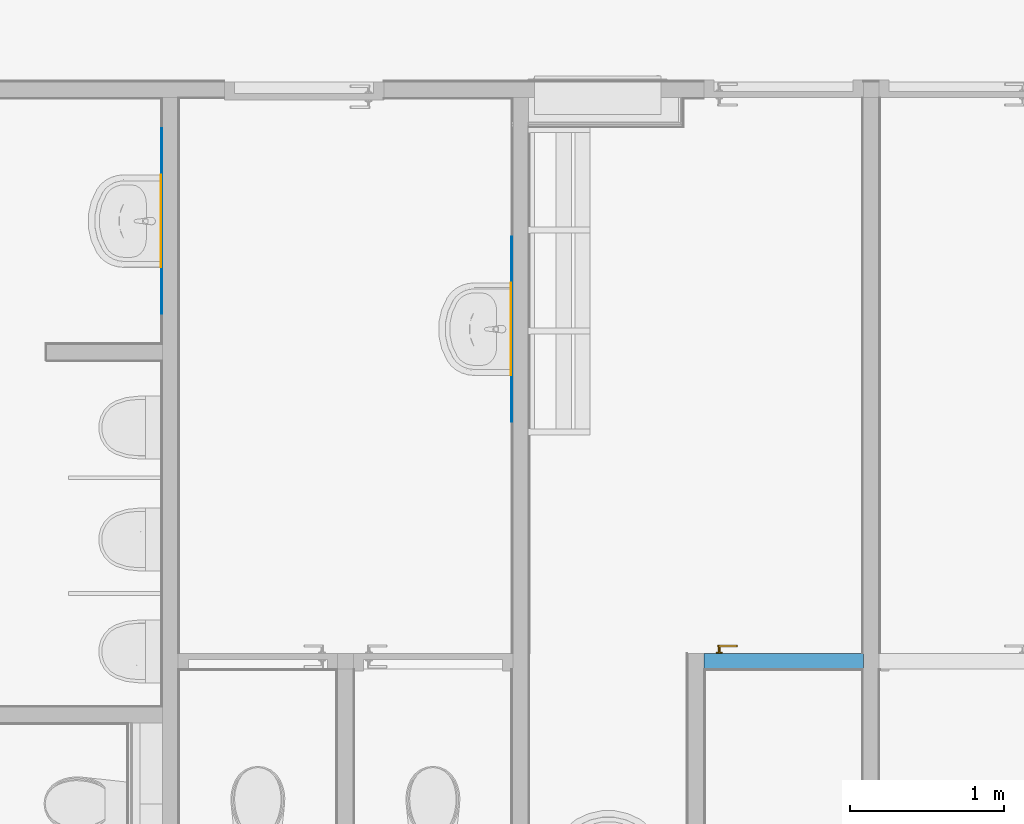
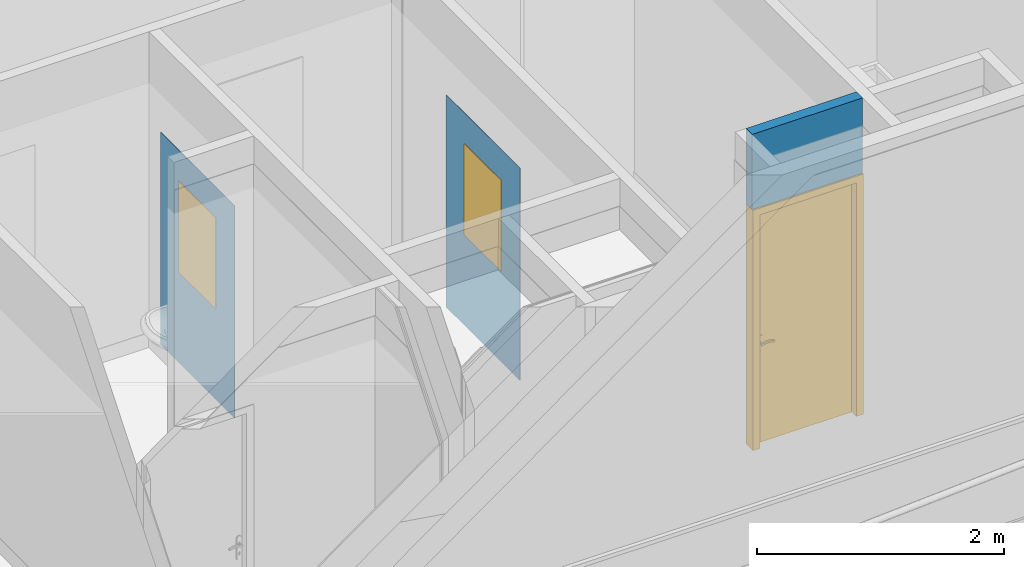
# One storey, part 6 of 788: 3 walls, 2 windows, 1 door, 3 openings.
"""IFC2X3 building model written with IfcOpenShell, lengths in millimetres."""

from ifc_helpers import new_model, entity, si_unit, converted_unit, derived_unit, money_unit, direction, frame, origin_with_axes, place, context, subcontext, project, spatial, faceted_brep, source, transform, mapped, material, type_object, type_shapes, element, fill, save


model = new_model("IFC2X3")

# Units and contexts
model_context = context("Model", 3, precision=0.01, world=origin_with_axes(), true_north=direction((0.0, 1.0)))
plan_context = context("Plan", 3, precision=0.01, world=origin_with_axes(), true_north=direction((0.0, 1.0)))
body_context = subcontext(model_context, "Body", "Model", "MODEL_VIEW")
ifc_project = project(units=[si_unit("LENGTHUNIT", "METRE", prefix="MILLI"), si_unit("AREAUNIT", "SQUARE_METRE"), si_unit("VOLUMEUNIT", "CUBIC_METRE"), converted_unit("PLANEANGLEUNIT", "DEGREE", entity("IfcPlaneAngleMeasure", 0.0174532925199), si_unit("PLANEANGLEUNIT", "RADIAN"), dimensions=[0, 0, 0, 0, 0, 0, 0]), money_unit("EUR"), converted_unit("TIMEUNIT", "Year", entity("IfcTimeMeasure", 31556926.0), si_unit("TIMEUNIT", "SECOND"), dimensions=[0, 0, 1, 0, 0, 0, 0]), si_unit("MASSUNIT", "GRAM", prefix="KILO"), si_unit("THERMODYNAMICTEMPERATUREUNIT", "DEGREE_CELSIUS"), si_unit("LUMINOUSINTENSITYUNIT", "LUMEN"), si_unit("ENERGYUNIT", "JOULE", prefix="MEGA"), derived_unit("THERMALCONDUCTANCEUNIT", [(si_unit("POWERUNIT", "WATT"), 1), (si_unit("LENGTHUNIT", "METRE"), -1), (si_unit("THERMODYNAMICTEMPERATUREUNIT", "KELVIN"), -1)]), derived_unit("SPECIFICHEATCAPACITYUNIT", [(si_unit("ENERGYUNIT", "JOULE"), 1), (si_unit("MASSUNIT", "GRAM", prefix="KILO"), -1), (si_unit("THERMODYNAMICTEMPERATUREUNIT", "KELVIN"), -1)]), derived_unit("MASSDENSITYUNIT", [(si_unit("MASSUNIT", "GRAM", prefix="KILO"), 1), (si_unit("VOLUMEUNIT", "CUBIC_METRE"), -1)])], contexts=[model_context, plan_context])

# Site, building, storey
site_placement = place(None, origin_with_axes())
site = spatial("IfcSite", under=ifc_project, at=site_placement, Name="Site", CompositionType="ELEMENT")
building_placement = place(site_placement, origin_with_axes())
building = spatial("IfcBuilding", under=site, at=building_placement, Name="Naam gebouw", CompositionType="ELEMENT")
storey_placement = place(building_placement, origin_with_axes())
storey = spatial("IfcBuildingStorey", under=building, at=storey_placement, Name="Begane grond", CompositionType="ELEMENT", Elevation=0.0)

# Wall, opening, door
ifc_material_1 = material(Name="Steen - Betonblok C")
wall_type_1 = type_object("IfcWallType", Name="22 Binnenwand NC_betonblok 100mm 100", PredefinedType="ELEMENTEDWALL")
wall_1_placement = place(storey_placement, frame((71875.9824942, -56503.9858655, 830.0), z_axis=(0.0, 0.0, 1.0), x_axis=(-1.0, 0.0, 0.0)))
wall_1 = element("IfcWall", 1, at=wall_1_placement, inside=storey, type_object=wall_type_1, material=ifc_material_1, Name="Binnenwand", context=body_context, shape_type="Brep", body=[
    faceted_brep([(0.0, 50.0, 2447.0), (0.0, -50.0, 2447.0), (0.0, -50.0, 3190.0), (0.0, 50.0, 3190.0), (1034.0, -50.0, 2447.0), (1034.0, 50.0, 2447.0), (1034.00282185, -50.0, 3190.0), (1034.00282185, 50.0, 3190.0)], [[[0, 1, 2, 3]], [[4, 1, 0, 5]], [[1, 4, 6, 2]], [[6, 7, 3, 2]], [[5, 0, 3, 7]], [[4, 5, 7, 6]]]),
])
opening_1_placement = place(wall_1_placement, frame((517.0, 0.0, 70.0), z_axis=(0.0, 0.0, 1.0), x_axis=(1.0, 0.0, 0.0)))
opening_1 = element("IfcOpeningElement", 2, at=opening_1_placement, cuts=wall_1, Name="b1.13", context=body_context, shape_type="Brep", body=[
    faceted_brep([(-517.0, 100.0, 2377.0), (-517.0, 100.0, 0.0), (-517.0, -200.0, 0.0), (-517.0, -200.0, 2377.0), (517.0, 100.0, 2377.0), (517.0, 100.0, 0.0), (517.0, -200.0, 0.0), (517.0, -200.0, 2377.0)], [[[0, 1, 2, 3]], [[0, 4, 5, 1]], [[1, 5, 6, 2]], [[3, 2, 6, 7]], [[4, 0, 3, 7]], [[5, 4, 7, 6]]]),
])
door_style = type_object("IfcDoorStyle", Name="D1 25", ConstructionType="NOTDEFINED", OperationType="SINGLE_SWING_RIGHT", ParameterTakesPrecedence=False, Sizeable=False)
shared_shape_1 = source(origin_with_axes(), body_context, "Body", "Brep", [
    faceted_brep([(-450.0, -40.0, 0.0), (-450.0, -40.0, 2310.0), (-450.0, -114.0, 2310.0), (-450.0, -114.0, 0.0), (-467.0, -40.0, 2310.0), (-467.0, -40.0, 0.0), (-467.0, 0.0, 2310.0), (-517.0, 0.0, 2310.0), (-517.0, -114.0, 2310.0), (-517.0, -114.0, 0.0), (-517.0, 0.0, 0.0), (-467.0, 0.0, 0.0)], [[[0, 1, 2, 3]], [[4, 1, 0, 5]], [[4, 6, 7, 8, 2, 1]], [[3, 2, 8, 9]], [[5, 0, 3, 9, 10, 11]], [[6, 4, 5, 11]], [[6, 11, 10, 7]], [[10, 9, 8, 7]]]),
    faceted_brep([(467.0, -40.0, 2310.0), (450.0, -40.0, 2310.0), (450.0, -114.0, 2310.0), (517.0, -114.0, 2310.0), (517.0, 0.0, 2310.0), (467.0, 0.0, 2310.0), (467.0, -40.0, 0.0), (450.0, -40.0, 0.0), (450.0, -114.0, 0.0), (517.0, -114.0, 0.0), (517.0, 0.0, 0.0), (467.0, 0.0, 0.0)], [[[0, 1, 2, 3, 4, 5]], [[1, 0, 6, 7]], [[1, 7, 8, 2]], [[3, 2, 8, 9]], [[4, 3, 9, 10]], [[11, 5, 4, 10]], [[0, 5, 11, 6]], [[6, 11, 10, 9, 8, 7]]]),
    faceted_brep([(-467.0, 0.0, 2327.0), (-467.0, 0.0, 2310.0), (-517.0, 0.0, 2310.0), (-517.0, 0.0, 2377.0), (517.0, 0.0, 2377.0), (517.0, 0.0, 2310.0), (467.0, 0.0, 2310.0), (467.0, 0.0, 2327.0), (-467.0, -40.0, 2327.0), (-467.0, -40.0, 2310.0), (-450.0, -40.0, 2310.0), (-450.0, -114.0, 2310.0), (-517.0, -114.0, 2310.0), (-517.0, -114.0, 2377.0), (517.0, -114.0, 2377.0), (517.0, -114.0, 2310.0), (467.0, -40.0, 2310.0), (450.0, -114.0, 2310.0), (450.0, -40.0, 2310.0), (467.0, -40.0, 2327.0)], [[[0, 1, 2, 3, 4, 5, 6, 7]], [[1, 0, 8, 9]], [[9, 10, 11, 12, 2, 1]], [[2, 12, 13, 3]], [[3, 13, 14, 4]], [[4, 14, 15, 5]], [[16, 6, 5, 15, 17, 18]], [[7, 6, 16, 19]], [[0, 7, 19, 8]], [[16, 18, 10, 9, 8, 19]], [[10, 18, 17, 11]], [[17, 15, 14, 13, 12, 11]]]),
    faceted_brep([(-421.702282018, -80.0, 1006.47213595), (-417.0, -80.0, 1008.0), (-417.0, -60.0, 1008.0), (-421.702282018, -60.0, 1006.47213595), (-424.60845213, -80.0, 1002.47213595), (-424.60845213, -80.0, 997.527864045), (-421.702282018, -80.0, 993.527864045), (-417.0, -80.0, 992.0), (-412.297717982, -80.0, 993.527864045), (-409.39154787, -80.0, 997.527864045), (-409.39154787, -80.0, 1002.47213595), (-412.297717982, -80.0, 1006.47213595), (-412.297717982, -60.0, 1006.47213595), (-417.0, -58.0, 1010.0), (-422.877852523, -58.0, 1008.09016994), (-424.60845213, -60.0, 1002.47213595), (-424.60845213, -60.0, 997.527864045), (-421.702282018, -60.0, 993.527864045), (-417.0, -60.0, 992.0), (-412.297717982, -60.0, 993.527864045), (-409.39154787, -60.0, 997.527864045), (-409.39154787, -60.0, 1002.47213595), (-411.122147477, -58.0, 1008.09016994), (-417.0, -50.0, 1010.0), (-422.877852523, -50.0, 1008.09016994), (-426.510565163, -58.0, 1003.09016994), (-426.510565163, -58.0, 996.909830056), (-422.877852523, -58.0, 991.909830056), (-417.0, -58.0, 990.0), (-411.122147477, -58.0, 991.909830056), (-407.489434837, -58.0, 996.909830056), (-407.489434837, -58.0, 1003.09016994), (-411.122147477, -50.0, 1008.09016994), (-407.489434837, -50.0, 1003.09016994), (-407.489434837, -50.0, 996.909830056), (-411.122147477, -50.0, 991.909830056), (-417.0, -50.0, 990.0), (-422.877852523, -50.0, 991.909830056), (-426.510565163, -50.0, 996.909830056), (-426.510565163, -50.0, 1003.09016994)], [[[0, 1, 2, 3]], [[1, 0, 4, 5, 6, 7, 8, 9, 10, 11]], [[1, 11, 12, 2]], [[3, 2, 13, 14]], [[4, 0, 3, 15]], [[5, 4, 15, 16]], [[6, 5, 16, 17]], [[7, 6, 17, 18]], [[8, 7, 18, 19]], [[9, 8, 19, 20]], [[10, 9, 20, 21]], [[11, 10, 21, 12]], [[2, 12, 22, 13]], [[14, 13, 23, 24]], [[15, 3, 14, 25]], [[16, 15, 25, 26]], [[17, 16, 26, 27]], [[18, 17, 27, 28]], [[19, 18, 28, 29]], [[20, 19, 29, 30]], [[21, 20, 30, 31]], [[12, 21, 31, 22]], [[13, 22, 32, 23]], [[23, 32, 33, 34, 35, 36, 37, 38, 39, 24]], [[25, 14, 24, 39]], [[26, 25, 39, 38]], [[27, 26, 38, 37]], [[28, 27, 37, 36]], [[29, 28, 36, 35]], [[30, 29, 35, 34]], [[31, 30, 34, 33]], [[22, 31, 33, 32]]]),
    faceted_brep([(-404.811616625, -50.0, 1067.59695641), (-412.556444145, -50.0, 1071.95567195), (-421.443555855, -50.0, 1071.95567195), (-429.188383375, -50.0, 1067.59695641), (-433.8, -50.0, 1060.0), (-439.5, -50.0, 1060.0), (-439.5, -50.0, 840.0), (-433.8, -50.0, 840.0), (-429.188383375, -50.0, 832.403043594), (-421.443555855, -50.0, 828.044328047), (-412.556444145, -50.0, 828.044328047), (-404.811616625, -50.0, 832.403043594), (-400.2, -50.0, 840.0), (-394.5, -50.0, 840.0), (-394.5, -50.0, 1060.0), (-400.2, -50.0, 1060.0), (-417.0, -50.0, 917.425445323), (-411.624817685, -50.0, 915.143815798), (-409.532169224, -50.0, 909.692280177), (-412.0, -50.0, 904.4), (-412.0, -50.0, 887.5), (-413.464466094, -50.0, 883.964466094), (-417.0, -50.0, 882.5), (-420.535533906, -50.0, 883.964466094), (-422.0, -50.0, 887.5), (-422.0, -50.0, 904.4), (-424.467830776, -50.0, 909.692280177), (-422.375182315, -50.0, 915.143815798), (-404.811616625, -40.0, 1067.59695641), (-412.556444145, -40.0, 1071.95567195), (-421.443555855, -40.0, 1071.95567195), (-429.188383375, -40.0, 1067.59695641), (-433.8, -40.0, 1060.0), (-439.5, -40.0, 1060.0), (-439.5, -40.0, 840.0), (-433.8, -40.0, 840.0), (-429.188383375, -40.0, 832.403043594), (-421.443555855, -40.0, 828.044328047), (-412.556444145, -40.0, 828.044328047), (-404.811616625, -40.0, 832.403043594), (-400.2, -40.0, 840.0), (-394.5, -40.0, 840.0), (-394.5, -40.0, 1060.0), (-400.2, -40.0, 1060.0), (-417.0, -40.0, 917.425445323), (-411.624817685, -40.0, 915.143815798), (-409.532169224, -40.0, 909.692280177), (-412.0, -40.0, 904.4), (-412.0, -40.0, 887.5), (-413.464466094, -40.0, 883.964466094), (-417.0, -40.0, 882.5), (-420.535533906, -40.0, 883.964466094), (-422.0, -40.0, 887.5), (-422.0, -40.0, 904.4), (-424.467830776, -40.0, 909.692280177), (-422.375182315, -40.0, 915.143815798)], [[[0, 1, 2, 3, 4, 5, 6, 7, 8, 9, 10, 11, 12, 13, 14, 15], [16, 17, 18, 19, 20, 21, 22, 23, 24, 25, 26, 27]], [[1, 0, 28, 29]], [[2, 1, 29, 30]], [[3, 2, 30, 31]], [[4, 3, 31, 32]], [[5, 4, 32, 33]], [[6, 5, 33, 34]], [[7, 6, 34, 35]], [[8, 7, 35, 36]], [[9, 8, 36, 37]], [[10, 9, 37, 38]], [[11, 10, 38, 39]], [[12, 11, 39, 40]], [[13, 12, 40, 41]], [[14, 13, 41, 42]], [[15, 14, 42, 43]], [[0, 15, 43, 28]], [[17, 16, 44, 45]], [[18, 17, 45, 46]], [[19, 18, 46, 47]], [[19, 47, 48, 20]], [[20, 48, 49, 21]], [[21, 49, 50, 22]], [[22, 50, 51, 23]], [[23, 51, 52, 24]], [[53, 25, 24, 52]], [[26, 25, 53, 54]], [[27, 26, 54, 55]], [[16, 27, 55, 44]], [[40, 39, 38, 37, 36, 35, 34, 33, 32, 31, 30, 29, 28, 43, 42, 41], [54, 53, 52, 51, 50, 49, 48, 47, 46, 45, 44, 55]]]),
    faceted_brep([(-302.747, -80.0, 1007.158), (-302.747, -95.0, 1007.158), (-302.745508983, -95.0, 1007.19388416), (-302.745508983, -80.0, 1007.19388416), (-329.774630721, -80.0, 1014.32652034), (-329.774630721, -95.0, 1014.32652034), (-357.602743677, -95.0, 1017.06086405), (-385.508740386, -95.0, 1015.29002982), (-412.768, -95.0, 1009.06), (-419.170575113, -95.0, 1009.76125134), (-424.672633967, -95.0, 1006.41280843), (-426.991512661, -95.0, 1000.40385485), (-425.165167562, -95.0, 994.227352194), (-419.951302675, -95.0, 990.445773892), (-413.513017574, -95.0, 990.628000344), (-408.521392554, -95.0, 994.698430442), (-408.542, -95.0, 994.666), (-383.253286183, -95.0, 1000.19878945), (-357.410818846, -95.0, 1001.71460194), (-331.648684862, -95.0, 999.176244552), (-306.599, -95.0, 992.646), (-301.055815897, -95.0, 993.568490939), (-297.69427449, -95.0, 998.071591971), (-298.385844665, -95.0, 1003.64829442), (-298.385844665, -80.0, 1003.64829442), (-297.69427449, -80.0, 998.071591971), (-301.055815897, -80.0, 993.568490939), (-306.599, -80.0, 992.646), (-331.648684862, -80.0, 999.176244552), (-357.410818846, -80.0, 1001.71460194), (-383.253286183, -80.0, 1000.19878945), (-408.542, -80.0, 994.666), (-408.521392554, -80.0, 994.698430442), (-413.513017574, -80.0, 990.628000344), (-419.951302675, -80.0, 990.445773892), (-425.165167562, -80.0, 994.227352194), (-426.991512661, -80.0, 1000.40385485), (-424.672633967, -80.0, 1006.41280843), (-419.170575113, -80.0, 1009.76125134), (-412.768, -80.0, 1009.06), (-385.508740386, -80.0, 1015.29002982), (-357.602743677, -80.0, 1017.06086405)], [[[0, 1, 2, 3]], [[4, 5, 1, 0]], [[1, 5, 6, 7, 8, 9, 10, 11, 12, 13, 14, 15, 16, 17, 18, 19, 20, 21, 22, 23, 2]], [[3, 2, 23, 24]], [[0, 3, 24, 25, 26, 27, 28, 29, 30, 31, 32, 33, 34, 35, 36, 37, 38, 39, 40, 41, 4]], [[41, 6, 5, 4]], [[40, 7, 6, 41]], [[39, 8, 7, 40]], [[38, 9, 8, 39]], [[37, 10, 9, 38]], [[36, 11, 10, 37]], [[35, 12, 11, 36]], [[34, 13, 12, 35]], [[33, 14, 13, 34]], [[32, 15, 14, 33]], [[31, 16, 15, 32]], [[30, 17, 16, 31]], [[29, 18, 17, 30]], [[28, 19, 18, 29]], [[27, 20, 19, 28]], [[26, 21, 20, 27]], [[25, 22, 21, 26]], [[24, 23, 22, 25]]]),
    faceted_brep([(-421.702282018, 40.0, 1006.47213595), (-421.702282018, 20.0, 1006.47213595), (-417.0, 20.0, 1008.0), (-417.0, 40.0, 1008.0), (-424.60845213, 40.0, 1002.47213595), (-424.60845213, 20.0, 1002.47213595), (-422.877852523, 18.0, 1008.09016994), (-417.0, 18.0, 1010.0), (-412.297717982, 20.0, 1006.47213595), (-412.297717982, 40.0, 1006.47213595), (-409.39154787, 40.0, 1002.47213595), (-409.39154787, 40.0, 997.527864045), (-412.297717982, 40.0, 993.527864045), (-417.0, 40.0, 992.0), (-421.702282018, 40.0, 993.527864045), (-424.60845213, 40.0, 997.527864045), (-424.60845213, 20.0, 997.527864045), (-426.510565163, 18.0, 1003.09016994), (-422.877852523, 10.0, 1008.09016994), (-417.0, 10.0, 1010.0), (-411.122147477, 18.0, 1008.09016994), (-409.39154787, 20.0, 1002.47213595), (-409.39154787, 20.0, 997.527864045), (-412.297717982, 20.0, 993.527864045), (-417.0, 20.0, 992.0), (-421.702282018, 20.0, 993.527864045), (-426.510565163, 18.0, 996.909830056), (-426.510565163, 10.0, 1003.09016994), (-426.510565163, 10.0, 996.909830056), (-422.877852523, 10.0, 991.909830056), (-417.0, 10.0, 990.0), (-411.122147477, 10.0, 991.909830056), (-407.489434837, 10.0, 996.909830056), (-407.489434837, 10.0, 1003.09016994), (-411.122147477, 10.0, 1008.09016994), (-407.489434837, 18.0, 1003.09016994), (-407.489434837, 18.0, 996.909830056), (-411.122147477, 18.0, 991.909830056), (-417.0, 18.0, 990.0), (-422.877852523, 18.0, 991.909830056)], [[[0, 1, 2, 3]], [[4, 5, 1, 0]], [[1, 6, 7, 2]], [[3, 2, 8, 9]], [[3, 9, 10, 11, 12, 13, 14, 15, 4, 0]], [[15, 16, 5, 4]], [[5, 17, 6, 1]], [[6, 18, 19, 7]], [[2, 7, 20, 8]], [[9, 8, 21, 10]], [[10, 21, 22, 11]], [[11, 22, 23, 12]], [[12, 23, 24, 13]], [[13, 24, 25, 14]], [[14, 25, 16, 15]], [[16, 26, 17, 5]], [[17, 27, 18, 6]], [[19, 18, 27, 28, 29, 30, 31, 32, 33, 34]], [[7, 19, 34, 20]], [[8, 20, 35, 21]], [[21, 35, 36, 22]], [[22, 36, 37, 23]], [[23, 37, 38, 24]], [[24, 38, 39, 25]], [[25, 39, 26, 16]], [[26, 28, 27, 17]], [[39, 29, 28, 26]], [[38, 30, 29, 39]], [[37, 31, 30, 38]], [[36, 32, 31, 37]], [[35, 33, 32, 36]], [[20, 34, 33, 35]]]),
    faceted_brep([(-404.811616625, 0.0, 1067.59695641), (-412.556444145, 0.0, 1071.95567195), (-421.443555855, 0.0, 1071.95567195), (-429.188383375, 0.0, 1067.59695641), (-433.8, 0.0, 1060.0), (-439.5, 0.0, 1060.0), (-439.5, 0.0, 840.0), (-433.8, 0.0, 840.0), (-429.188383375, 0.0, 832.403043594), (-421.443555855, 0.0, 828.044328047), (-412.556444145, 0.0, 828.044328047), (-404.811616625, 0.0, 832.403043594), (-400.2, 0.0, 840.0), (-394.5, 0.0, 840.0), (-394.5, 0.0, 1060.0), (-400.2, 0.0, 1060.0), (-417.0, 0.0, 917.425445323), (-411.624817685, 0.0, 915.143815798), (-409.532169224, 0.0, 909.692280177), (-412.0, 0.0, 904.4), (-412.0, 0.0, 887.5), (-413.464466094, 0.0, 883.964466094), (-417.0, 0.0, 882.5), (-420.535533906, 0.0, 883.964466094), (-422.0, 0.0, 887.5), (-422.0, 0.0, 904.4), (-424.467830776, 0.0, 909.692280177), (-422.375182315, 0.0, 915.143815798), (-412.556444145, 10.0, 1071.95567195), (-404.811616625, 10.0, 1067.59695641), (-421.443555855, 10.0, 1071.95567195), (-429.188383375, 10.0, 1067.59695641), (-433.8, 10.0, 1060.0), (-439.5, 10.0, 1060.0), (-439.5, 10.0, 840.0), (-433.8, 10.0, 840.0), (-429.188383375, 10.0, 832.403043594), (-421.443555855, 10.0, 828.044328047), (-412.556444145, 10.0, 828.044328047), (-404.811616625, 10.0, 832.403043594), (-400.2, 10.0, 840.0), (-394.5, 10.0, 840.0), (-394.5, 10.0, 1060.0), (-400.2, 10.0, 1060.0), (-417.0, 10.0, 917.425445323), (-411.624817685, 10.0, 915.143815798), (-409.532169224, 10.0, 909.692280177), (-412.0, 10.0, 904.4), (-412.0, 10.0, 887.5), (-413.464466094, 10.0, 883.964466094), (-417.0, 10.0, 882.5), (-420.535533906, 10.0, 883.964466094), (-422.0, 10.0, 887.5), (-422.0, 10.0, 904.4), (-424.467830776, 10.0, 909.692280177), (-422.375182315, 10.0, 915.143815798)], [[[0, 1, 2, 3, 4, 5, 6, 7, 8, 9, 10, 11, 12, 13, 14, 15], [16, 17, 18, 19, 20, 21, 22, 23, 24, 25, 26, 27]], [[28, 1, 0, 29]], [[30, 2, 1, 28]], [[31, 3, 2, 30]], [[32, 4, 3, 31]], [[33, 5, 4, 32]], [[34, 6, 5, 33]], [[35, 7, 6, 34]], [[36, 8, 7, 35]], [[37, 9, 8, 36]], [[38, 10, 9, 37]], [[39, 11, 10, 38]], [[40, 12, 11, 39]], [[41, 13, 12, 40]], [[42, 14, 13, 41]], [[43, 15, 14, 42]], [[29, 0, 15, 43]], [[17, 16, 44, 45]], [[18, 17, 45, 46]], [[19, 18, 46, 47]], [[19, 47, 48, 20]], [[20, 48, 49, 21]], [[21, 49, 50, 22]], [[22, 50, 51, 23]], [[23, 51, 52, 24]], [[53, 25, 24, 52]], [[26, 25, 53, 54]], [[27, 26, 54, 55]], [[16, 27, 55, 44]], [[40, 39, 38, 37, 36, 35, 34, 33, 32, 31, 30, 28, 29, 43, 42, 41], [54, 53, 52, 51, 50, 49, 48, 47, 46, 45, 44, 55]]]),
    faceted_brep([(-302.747, 40.0, 1007.158), (-302.745508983, 40.0, 1007.19388416), (-302.745508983, 55.0, 1007.19388416), (-302.747, 55.0, 1007.158), (-329.774630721, 40.0, 1014.32652034), (-357.602743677, 40.0, 1017.06086405), (-385.508740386, 40.0, 1015.29002982), (-412.768, 40.0, 1009.06), (-419.170575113, 40.0, 1009.76125134), (-424.672633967, 40.0, 1006.41280843), (-426.991512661, 40.0, 1000.40385485), (-425.165167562, 40.0, 994.227352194), (-419.951302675, 40.0, 990.445773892), (-413.513017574, 40.0, 990.628000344), (-408.521392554, 40.0, 994.698430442), (-408.542, 40.0, 994.666), (-383.253286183, 40.0, 1000.19878945), (-357.410818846, 40.0, 1001.71460194), (-331.648684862, 40.0, 999.176244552), (-306.599, 40.0, 992.646), (-301.055815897, 40.0, 993.568490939), (-297.69427449, 40.0, 998.071591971), (-298.385844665, 40.0, 1003.64829442), (-298.385844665, 55.0, 1003.64829442), (-297.69427449, 55.0, 998.071591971), (-301.055815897, 55.0, 993.568490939), (-306.599, 55.0, 992.646), (-331.648684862, 55.0, 999.176244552), (-357.410818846, 55.0, 1001.71460194), (-383.253286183, 55.0, 1000.19878945), (-408.542, 55.0, 994.666), (-408.521392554, 55.0, 994.698430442), (-413.513017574, 55.0, 990.628000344), (-419.951302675, 55.0, 990.445773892), (-425.165167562, 55.0, 994.227352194), (-426.991512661, 55.0, 1000.40385485), (-424.672633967, 55.0, 1006.41280843), (-419.170575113, 55.0, 1009.76125134), (-412.768, 55.0, 1009.06), (-385.508740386, 55.0, 1015.29002982), (-357.602743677, 55.0, 1017.06086405), (-329.774630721, 55.0, 1014.32652034)], [[[0, 1, 2, 3]], [[0, 4, 5, 6, 7, 8, 9, 10, 11, 12, 13, 14, 15, 16, 17, 18, 19, 20, 21, 22, 1]], [[1, 22, 23, 2]], [[3, 2, 23, 24, 25, 26, 27, 28, 29, 30, 31, 32, 33, 34, 35, 36, 37, 38, 39, 40, 41]], [[4, 0, 3, 41]], [[5, 4, 41, 40]], [[6, 5, 40, 39]], [[7, 6, 39, 38]], [[8, 7, 38, 37]], [[9, 8, 37, 36]], [[10, 9, 36, 35]], [[11, 10, 35, 34]], [[12, 11, 34, 33]], [[13, 12, 33, 32]], [[14, 13, 32, 31]], [[15, 14, 31, 30]], [[16, 15, 30, 29]], [[17, 16, 29, 28]], [[18, 17, 28, 27]], [[19, 18, 27, 26]], [[20, 19, 26, 25]], [[21, 20, 25, 24]], [[22, 21, 24, 23]]]),
    faceted_brep([(467.0, 0.0, 0.0), (467.0, -40.0, 0.0), (-467.0, -40.0, 0.0), (-467.0, 0.0, 0.0), (467.0, 0.0, 2327.0), (467.0, -40.0, 2327.0), (-467.0, -40.0, 2327.0), (-467.0, 0.0, 2327.0)], [[[0, 1, 2, 3]], [[4, 5, 1, 0]], [[1, 5, 6, 2]], [[3, 2, 6, 7]], [[0, 3, 7, 4]], [[7, 6, 5, 4]]]),
])
type_shapes(door_style, [shared_shape_1])
door_placement = place(opening_1_placement, frame((517.0, 0.0, 0.0), z_axis=(0.0, 0.0, 1.0), x_axis=(-1.0, 0.0, 0.0)))
door = element("IfcDoor", 3, at=door_placement, inside=storey, type_object=door_style, Name="b1.13", ObjectType="DOOR", OverallHeight=2377.0, OverallWidth=1034.0, context=body_context, shape_type="MappedRepresentation", body=[
    mapped(shared_shape_1, transform((517.0, 50.0, 0.0))),
])
fill(opening_1, door)

# Wall, opening, window
ifc_material_2 = material(Name="AFW - Wandtegelwerk")
wall_type_2 = type_object("IfcWallType", Name="AFW - Wandtegelwerk 5", PredefinedType="ELEMENTEDWALL")
wall_2_placement = place(storey_placement, frame((69596.0166309, -54953.9586407, 1050.0), z_axis=(0.0, 0.0, 1.0), x_axis=(0.0, 1.0, 0.0)))
wall_2 = element("IfcWall", 4, at=wall_2_placement, inside=storey, type_object=wall_type_2, material=ifc_material_2, Name="Wandtegelwerk", context=body_context, shape_type="Brep", body=[
    faceted_brep([(0.0, -5.0, 2100.0), (1200.0, -5.0, 2100.0), (1200.0, 0.0, 2100.0), (0.0, 0.0, 2100.0), (0.0, -5.0, 0.0), (1200.0, -5.0, 0.0), (1200.0, 0.0, 0.0), (0.0, 0.0, 0.0)], [[[0, 1, 2, 3]], [[4, 5, 1, 0]], [[2, 1, 5, 6]], [[3, 2, 6, 7]], [[4, 0, 3, 7]], [[7, 6, 5, 4]]]),
])
opening_2_placement = place(wall_2_placement, frame((600.0, 0.0, 900.0), z_axis=(0.0, 0.0, 1.0), x_axis=(1.0, 0.0, 0.0)))
opening_2 = element("IfcOpeningElement", 5, at=opening_2_placement, cuts=wall_2, Name="nis tbv luifel", context=body_context, shape_type="Brep", body=[
    faceted_brep([(0.0, 1015.0, 0.0), (-10.0, 1005.0, 0.0), (-10.0, 1005.0, 10.0), (0.0, 1015.0, 10.0), (10.0, 1005.0, 0.0), (10.0, 1005.0, 10.0)], [[[0, 1, 2, 3]], [[0, 4, 1]], [[1, 4, 5, 2]], [[3, 2, 5]], [[4, 0, 3, 5]]]),
])
window_style = type_object("IfcWindowStyle", Name="R Uitstulping 25", ConstructionType="NOTDEFINED", OperationType="NOTDEFINED", ParameterTakesPrecedence=False, Sizeable=False)
shared_shape_2 = source(origin_with_axes(), body_context, "Body", "Brep", [
    faceted_brep([(-300.0, 0.0, 0.0), (300.0, 0.0, 0.0), (300.0, 0.0, 900.0), (-300.0, 0.0, 900.0), (-300.0, 5.0, 0.0), (300.0, 5.0, 0.0), (300.0, 5.0, 900.0), (-300.0, 5.0, 900.0)], [[[0, 1, 2, 3]], [[0, 4, 5, 1]], [[1, 5, 6, 2]], [[3, 2, 6, 7]], [[4, 0, 3, 7]], [[5, 4, 7, 6]]]),
])
type_shapes(window_style, [shared_shape_2])
window_1_placement = place(opening_2_placement, frame((-300.0, 0.0, 0.0), z_axis=(0.0, 0.0, 1.0), x_axis=(1.0, 0.0, 0.0)))
window_1 = element("IfcWindow", 6, at=window_1_placement, inside=storey, type_object=window_style, material=ifc_material_2, Name="nis tbv luifel", ObjectType="WINDOW", OverallHeight=900.0, OverallWidth=600.0, context=body_context, shape_type="MappedRepresentation", body=[
    mapped(shared_shape_2, transform((300.0, 0.0, 0.0))),
])
fill(opening_2, window_1)

wall_3_placement = place(storey_placement, frame((67328.0166501, -54254.001831, 1050.0), z_axis=(0.0, 0.0, 1.0), x_axis=(0.0, 1.0, 0.0)))
wall_3 = element("IfcWall", 7, at=wall_3_placement, inside=storey, type_object=wall_type_2, material=ifc_material_2, Name="Wandtegelwerk", context=body_context, shape_type="Brep", body=[
    faceted_brep([(0.0, -5.0, 2100.0), (1200.0, -5.0, 2100.0), (1200.0, 0.0, 2100.0), (0.0, 0.0, 2100.0), (0.0, -5.0, 0.0), (1200.0, -5.0, 0.0), (1200.0, 0.0, 0.0), (0.0, 0.0, 0.0)], [[[0, 1, 2, 3]], [[4, 5, 1, 0]], [[2, 1, 5, 6]], [[3, 2, 6, 7]], [[4, 0, 3, 7]], [[7, 6, 5, 4]]]),
])
opening_3_placement = place(wall_3_placement, frame((600.0, 0.0, 900.0), z_axis=(0.0, 0.0, 1.0), x_axis=(1.0, 0.0, 0.0)))
opening_3 = element("IfcOpeningElement", 8, at=opening_3_placement, cuts=wall_3, Name="nis tbv luifel", context=body_context, shape_type="Brep", body=[
    faceted_brep([(0.0, 1015.0, 0.0), (-10.0, 1005.0, 0.0), (-10.0, 1005.0, 10.0), (0.0, 1015.0, 10.0), (10.0, 1005.0, 0.0), (10.0, 1005.0, 10.0)], [[[0, 1, 2, 3]], [[0, 4, 1]], [[1, 4, 5, 2]], [[3, 2, 5]], [[4, 0, 3, 5]]]),
])
window_2_placement = place(opening_3_placement, frame((-300.0, 0.0, 0.0), z_axis=(0.0, 0.0, 1.0), x_axis=(1.0, 0.0, 0.0)))
window_2 = element("IfcWindow", 9, at=window_2_placement, inside=storey, type_object=window_style, material=ifc_material_2, Name="nis tbv luifel", ObjectType="WINDOW", OverallHeight=900.0, OverallWidth=600.0, context=body_context, shape_type="MappedRepresentation", body=[
    mapped(shared_shape_2, transform((300.0, 0.0, 0.0))),
])
fill(opening_3, window_2)

save(model, "model.ifc")
